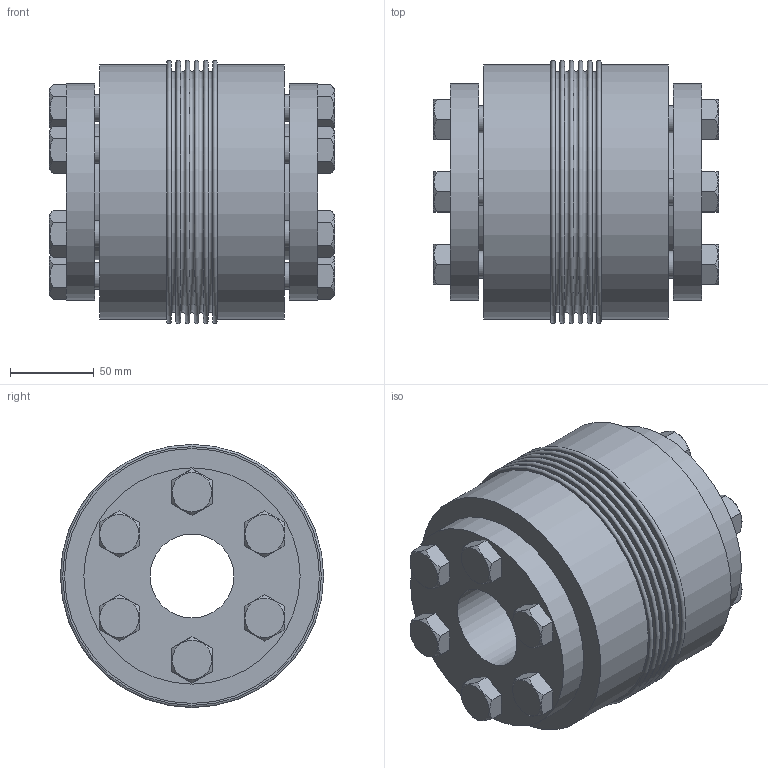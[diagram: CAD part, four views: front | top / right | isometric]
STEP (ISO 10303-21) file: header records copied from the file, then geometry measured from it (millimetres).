
FILE_DESCRIPTION((''),'2;1');
FILE_NAME('','2010-11-02T09:22:48-01:00',(''),(''),'1.0','','');
FILE_SCHEMA(('AUTOMOTIVE_DESIGN_CC1'));
Length unit declared in the file: millimetre
Products named in the file (1): product_id
Bounding box: 170 x 157 x 157 mm (x, y, z)
Volume: 2175266.3 mm3; surface area: 269356.6 mm2
Topology: 1 solids, 1 shells, 220 faces, 434 edges, 282 vertices
Faces by surface type: plane 140, cylinder 45, cone 24, torus 11
Full cylindrical faces by diameter (mm): 16 x12, 16.16 x12, 17 x12, 50 x2, 70 x1, 81 x2, 129 x2, 152 x2
Entity records: 5170 total; most frequent: CARTESIAN_POINT 995, DIRECTION 854, ORIENTED_EDGE 704, EDGE_LOOP 368, AXIS2_PLACEMENT_3D 355, EDGE_CURVE 352, VERTEX_POINT 280, FACE_BOUND 228
